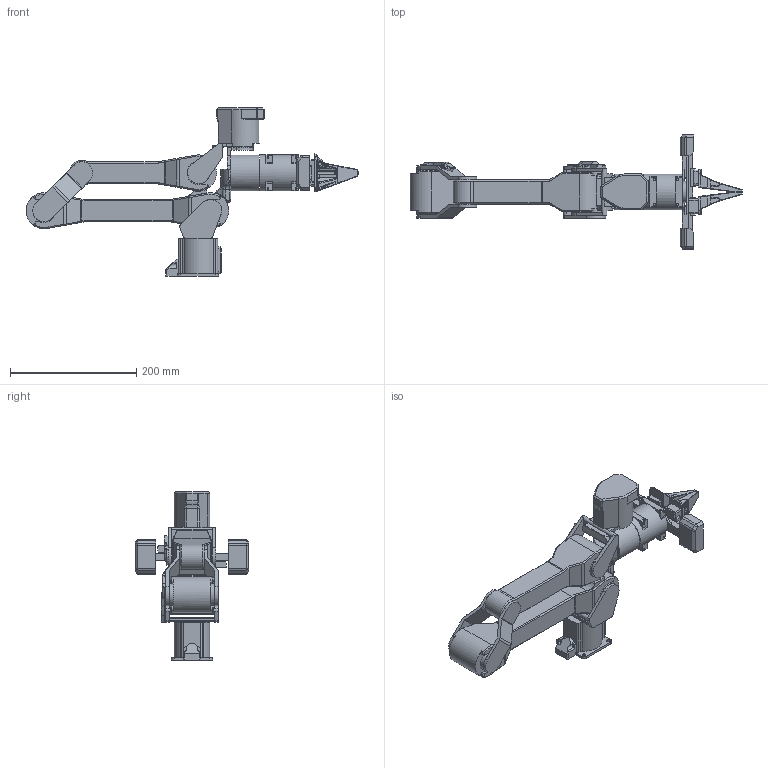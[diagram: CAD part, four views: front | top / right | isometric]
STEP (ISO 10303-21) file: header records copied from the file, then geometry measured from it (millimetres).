
FILE_DESCRIPTION(/* description */ ('STEP AP214','CAx-IF Rec.Pracs.---Representation and Presentation of Product Manufacturing Information (PMI)---4.0---2014-10-13'),/* implementation_level */ '2;1');
FILE_NAME(/* name */ 'WidowX AI Simplified Base.step',/* time_stamp */ '2025-02-12T16:45:51-06:00',/* author */ (''),/* organization */ (''),/* preprocessor_version */ 'ST-DEVELOPER v20',/* originating_system */ 'Autodesk Translation Framework v13.20.0.188',/* authorisation */ '');
FILE_SCHEMA (('AP242_MANAGED_MODEL_BASED_3D_ENGINEERING_MIM_LF { 1 0 10303 442 1 1 4 }'));
Length unit declared in the file: millimetre
Products named in the file (13): dummy WidowX AI arm; base_link dummy:step:1; link_1 dummy.step; link_2 dummy.step; link_3 dummy.step; link_4 dummy.step; link_5; link_6 standard dummy.step; gripper_leader_right; gripper sock left.step; gripper sock right.step; 103107032_01.step; 103107033_01.step
Assembly tree (13 placements, depth 2):
  dummy WidowX AI arm
    base_link dummy:step:1
    link_1 dummy.step
    link_2 dummy.step
    link_3 dummy.step
    link_4 dummy.step
    link_5
    link_6 standard dummy.step
    gripper_leader_right  x2
    gripper sock left.step
    gripper sock right.step
    103107032_01.step
    103107033_01.step
Bounding box: 525.98 x 180.6 x 266.4 mm (x, y, z)
Volume: 2182414.4 mm3; surface area: 317169.8 mm2
Topology: 15 solids, 15 shells, 1740 faces, 4381 edges, 2672 vertices
Faces by surface type: cylinder 634, plane 626, bspline 341, cone 78, torus 51, sphere 10
Full cylindrical faces by diameter (mm): 2.529 x12, 3.15 x6, 3.25 x6, 5.2 x4, 33.5 x1, 35 x10, 37 x1, 43 x1, 57 x2
Entity records: 72555 total; most frequent: CARTESIAN_POINT 33723, ORIENTED_EDGE 8332, DIRECTION 7783, EDGE_CURVE 4166, AXIS2_PLACEMENT_3D 2872, VERTEX_POINT 2552, LINE 2039, VECTOR 2039
